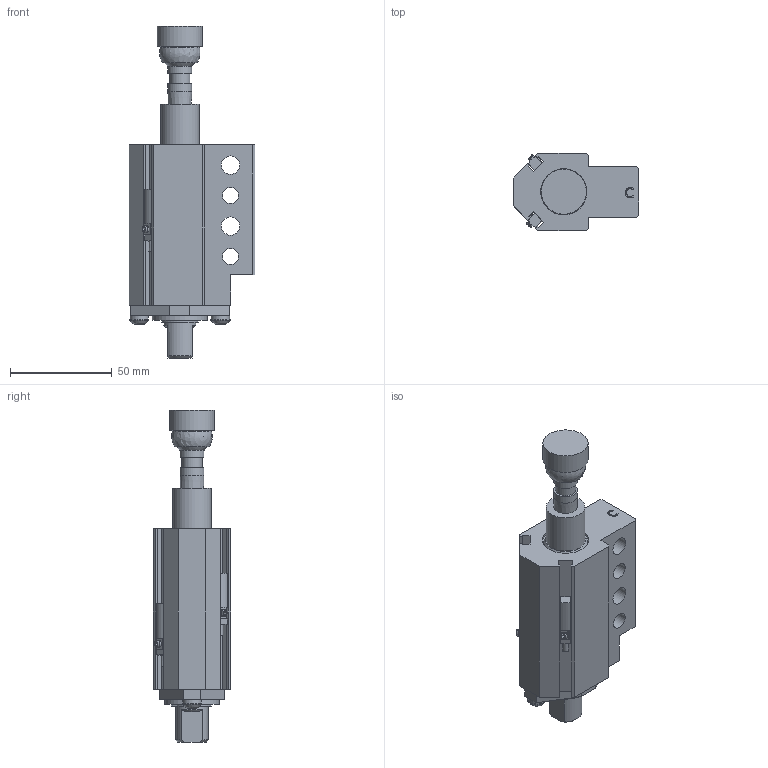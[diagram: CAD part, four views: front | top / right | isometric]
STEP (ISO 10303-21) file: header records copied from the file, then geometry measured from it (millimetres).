
FILE_DESCRIPTION(/* description */ ('MINI PASS THRU GROUND BLOCK'),/* implementation_level */ '2;1');
FILE_NAME(/* name */ 'C:\Vault Workspace\CAD\Welker\Cylinders\GBM\GBMECL3.stp',/* time_stamp */ '2021-06-25T07:33:28-04:00',/* author */ ('KPL'),/* organization */ (''),/* preprocessor_version */ 'ST-DEVELOPER v18.1',/* originating_system */ 'Autodesk Inventor 2020',/* authorisation */ '');
FILE_SCHEMA (('AUTOMOTIVE_DESIGN { 1 0 10303 214 3 1 1 }'));
Products named in the file (11): GBML01; 91590A126; 96100A152; L3 Sensor 1; M5X0.8-10 BHCS; NL5; GBME01C; GBME02; GBME04; SN-147; AN-05U2145
Assembly tree (13 placements, depth 2):
  GBML01
    91590A126
    96100A152
    L3 Sensor 1  x2
    M5X0.8-10 BHCS  x2
    NL5  x2
    GBME01C
    GBME02
    GBME04
    SN-147
    AN-05U2145
Bounding box: 62 x 38.1 x 163.5 mm (x, y, z)
Volume: 133726.5 mm3; surface area: 49689.6 mm2
Topology: 13 solids, 13 shells, 445 faces, 1225 edges, 820 vertices
Faces by surface type: plane 304, cylinder 97, cone 18, bspline 18, torus 4, sphere 4
Full cylindrical faces by diameter (mm): 1.194 x2, 2.9 x2, 4.134 x2, 5 x2, 5.4 x2, 5.5 x2, 6.647 x1, 8 x2, 9 x4, 9.5 x2, 10 x1, 11.76 x2, 14.935 x1, 15.875 x3, 16.383 x1, 19.05 x1, 19.177 x1, 22.225 x3, 22.784 x1, 24.613 x1, 25.654 x1, 25.705 x1, 26.987 x1, 28.591 x1, 28.667 x1
Entity records: 10366 total; most frequent: CARTESIAN_POINT 1999, DIRECTION 1641, ORIENTED_EDGE 1630, EDGE_CURVE 815, AXIS2_PLACEMENT_3D 565, VERTEX_POINT 557, LINE 511, VECTOR 511
